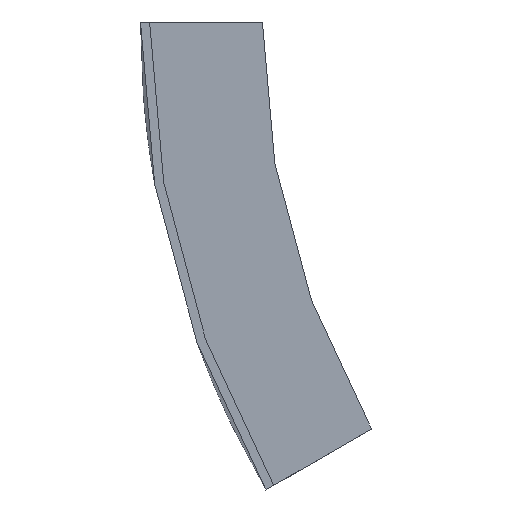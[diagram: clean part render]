
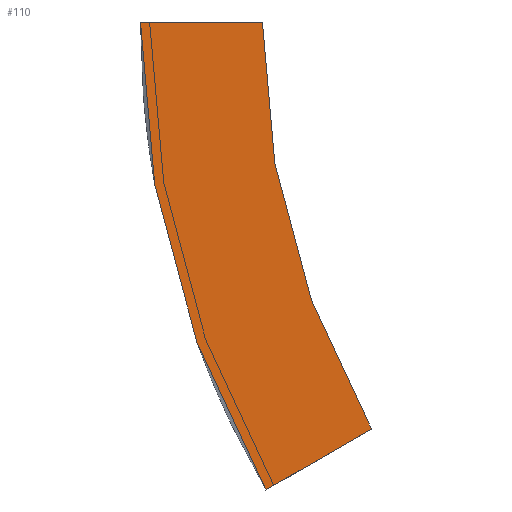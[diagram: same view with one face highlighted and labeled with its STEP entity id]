
A CAD part, left-side view. The second image highlights one B-rep face of the part: STEP entity #110.
In plain terms, the highlighted planar face has unit normal (-1, 0, 0).
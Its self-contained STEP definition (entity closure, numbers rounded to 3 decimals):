
#18 = VERTEX_POINT ( 'NONE', #100 ) ;
#21 = AXIS2_PLACEMENT_3D ( 'NONE', #551, #99, #283 ) ;
#66 = VERTEX_POINT ( 'NONE', #286 ) ;
#92 = CARTESIAN_POINT ( 'NONE',  ( -303.5, -37.886, -66.75 ) ) ;
#96 = PLANE ( 'NONE',  #248 ) ;
#99 = DIRECTION ( 'NONE',  ( 1., 0., 0. ) ) ;
#100 = CARTESIAN_POINT ( 'NONE',  ( -303.5, -37.886, -66.75 ) ) ;
#110 = ADVANCED_FACE ( 'NONE', ( #507 ), #96, .T. ) ;
#129 = CARTESIAN_POINT ( 'NONE',  ( -303.5, -153.5, 0. ) ) ;
#158 = CARTESIAN_POINT ( 'NONE',  ( -303.5, -20., 0. ) ) ;
#185 = DIRECTION ( 'NONE',  ( 0., 0., -1. ) ) ;
#190 = DIRECTION ( 'NONE',  ( -1., 0., 0. ) ) ;
#192 = DIRECTION ( 'NONE',  ( 0., 0.866, -0.5 ) ) ;
#214 = EDGE_LOOP ( 'NONE', ( #528, #536, #222, #363 ) ) ;
#222 = ORIENTED_EDGE ( 'NONE', *, *, #232, .F. ) ;
#227 = DIRECTION ( 'NONE',  ( -1., 0., 0. ) ) ;
#232 = EDGE_CURVE ( 'NONE', #275, #18, #543, .T. ) ;
#248 = AXIS2_PLACEMENT_3D ( 'NONE', #291, #190, #326 ) ;
#272 = EDGE_CURVE ( 'NONE', #18, #66, #376, .T. ) ;
#275 = VERTEX_POINT ( 'NONE', #590 ) ;
#283 = DIRECTION ( 'NONE',  ( 0., 0., 1. ) ) ;
#285 = EDGE_CURVE ( 'NONE', #66, #479, #345, .T. ) ;
#286 = CARTESIAN_POINT ( 'NONE',  ( -303.5, -20.565, -76.75 ) ) ;
#291 = CARTESIAN_POINT ( 'NONE',  ( -303.5, -153.5, 0. ) ) ;
#296 = AXIS2_PLACEMENT_3D ( 'NONE', #129, #227, #185 ) ;
#326 = DIRECTION ( 'NONE',  ( 0., 0., 1. ) ) ;
#345 = CIRCLE ( 'NONE', #21, 153.5 ) ;
#359 = DIRECTION ( 'NONE',  ( 0., -1., 0. ) ) ;
#363 = ORIENTED_EDGE ( 'NONE', *, *, #453, .F. ) ;
#367 = CARTESIAN_POINT ( 'NONE',  ( -303.5, 0., 0. ) ) ;
#376 = LINE ( 'NONE', #92, #377 ) ;
#377 = VECTOR ( 'NONE', #192, 1000. ) ;
#398 = LINE ( 'NONE', #158, #552 ) ;
#453 = EDGE_CURVE ( 'NONE', #479, #275, #398, .T. ) ;
#479 = VERTEX_POINT ( 'NONE', #367 ) ;
#507 = FACE_OUTER_BOUND ( 'NONE', #214, .T. ) ;
#528 = ORIENTED_EDGE ( 'NONE', *, *, #285, .F. ) ;
#536 = ORIENTED_EDGE ( 'NONE', *, *, #272, .F. ) ;
#543 = CIRCLE ( 'NONE', #296, 133.5 ) ;
#551 = CARTESIAN_POINT ( 'NONE',  ( -303.5, -153.5, 0. ) ) ;
#552 = VECTOR ( 'NONE', #359, 1000. ) ;
#590 = CARTESIAN_POINT ( 'NONE',  ( -303.5, -20., 0. ) ) ;
